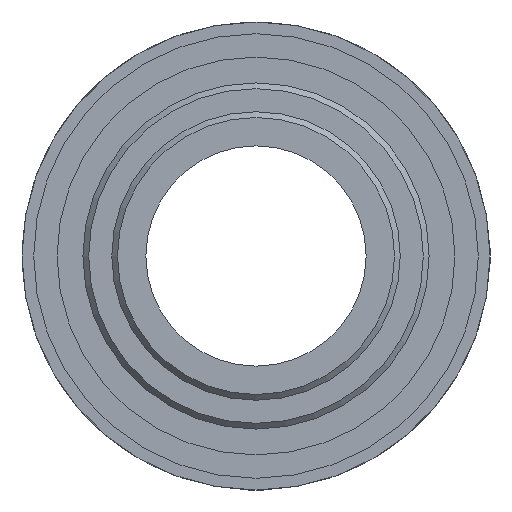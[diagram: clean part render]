
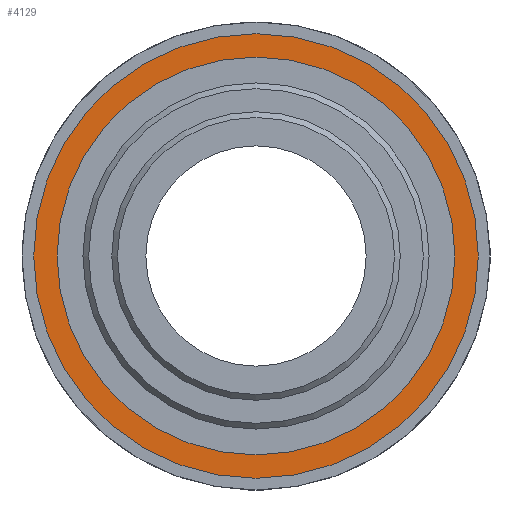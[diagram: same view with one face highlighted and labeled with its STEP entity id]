
A CAD part, left-side view. The second image highlights one B-rep face of the part: STEP entity #4129.
In plain terms, the highlighted planar face has unit normal (-1, 0, 0).
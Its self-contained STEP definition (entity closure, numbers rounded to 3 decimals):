
#291=FACE_BOUND('',#854,.T.);
#310=CIRCLE('',#4419,14.45);
#311=CIRCLE('',#4422,16.15);
#561=FACE_OUTER_BOUND('',#853,.T.);
#853=EDGE_LOOP('',(#2781));
#854=EDGE_LOOP('',(#2782));
#1706=VERTEX_POINT('',#6288);
#1707=VERTEX_POINT('',#6292);
#2096=EDGE_CURVE('',#1706,#1706,#310,.T.);
#2097=EDGE_CURVE('',#1707,#1707,#311,.T.);
#2781=ORIENTED_EDGE('',*,*,#2097,.F.);
#2782=ORIENTED_EDGE('',*,*,#2096,.T.);
#3981=PLANE('',#4424);
#4129=ADVANCED_FACE('',(#561,#291),#3981,.F.);
#4419=AXIS2_PLACEMENT_3D('',#6289,#4994,#4995);
#4422=AXIS2_PLACEMENT_3D('',#6293,#5000,#5001);
#4424=AXIS2_PLACEMENT_3D('',#6296,#5004,#5005);
#4994=DIRECTION('center_axis',(1.,0.,0.));
#4995=DIRECTION('ref_axis',(0.,0.,-1.));
#5000=DIRECTION('center_axis',(1.,0.,0.));
#5001=DIRECTION('ref_axis',(0.,0.,-1.));
#5004=DIRECTION('center_axis',(1.,0.,0.));
#5005=DIRECTION('ref_axis',(0.,0.,-1.));
#6288=CARTESIAN_POINT('',(1.62,0.,14.45));
#6289=CARTESIAN_POINT('Origin',(1.62,0.,0.));
#6292=CARTESIAN_POINT('',(1.62,0.,16.15));
#6293=CARTESIAN_POINT('Origin',(1.62,0.,0.));
#6296=CARTESIAN_POINT('Origin',(1.62,0.,0.));
